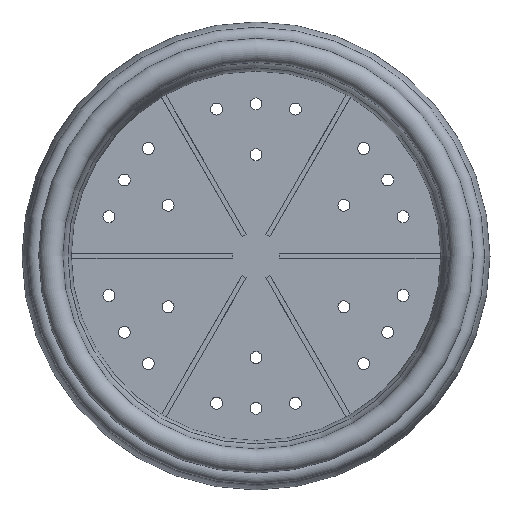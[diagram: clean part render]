
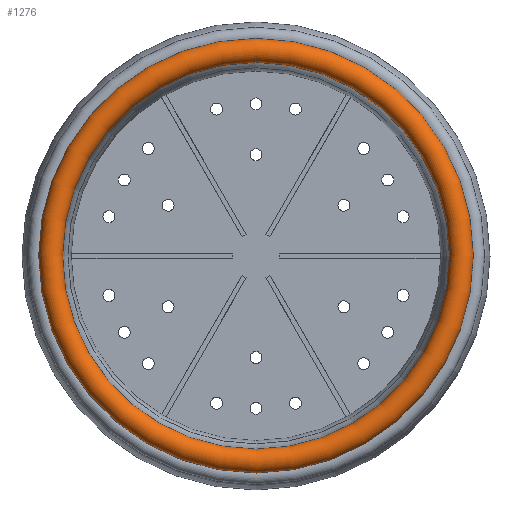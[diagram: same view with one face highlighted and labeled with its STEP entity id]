
A CAD part, top view. The second image highlights one B-rep face of the part: STEP entity #1276.
In plain terms, the highlighted toroidal (fillet/blend) face has major radius 86 mm and minor radius 5 mm.
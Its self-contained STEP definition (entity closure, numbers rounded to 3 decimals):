
#18=TOROIDAL_SURFACE('',#1441,86.,5.);
#154=FACE_OUTER_BOUND('',#245,.T.);
#245=EDGE_LOOP('',(#1097,#1098,#1099,#1100));
#522=CIRCLE('',#1440,89.83);
#523=CIRCLE('',#1442,81.);
#524=CIRCLE('',#1443,5.);
#643=VERTEX_POINT('',#2201);
#644=VERTEX_POINT('',#2205);
#810=EDGE_CURVE('',#643,#643,#522,.T.);
#812=EDGE_CURVE('',#644,#644,#523,.T.);
#813=EDGE_CURVE('',#644,#643,#524,.T.);
#1097=ORIENTED_EDGE('',*,*,#812,.F.);
#1098=ORIENTED_EDGE('',*,*,#813,.T.);
#1099=ORIENTED_EDGE('',*,*,#810,.T.);
#1100=ORIENTED_EDGE('',*,*,#813,.F.);
#1276=ADVANCED_FACE('',(#154),#18,.T.);
#1440=AXIS2_PLACEMENT_3D('',#2202,#1821,#1822);
#1441=AXIS2_PLACEMENT_3D('',#2204,#1824,#1825);
#1442=AXIS2_PLACEMENT_3D('',#2206,#1826,#1827);
#1443=AXIS2_PLACEMENT_3D('',#2207,#1828,#1829);
#1821=DIRECTION('center_axis',(0.,0.,1.));
#1822=DIRECTION('ref_axis',(1.,0.,0.));
#1824=DIRECTION('center_axis',(0.,0.,1.));
#1825=DIRECTION('ref_axis',(1.,0.,0.));
#1826=DIRECTION('center_axis',(0.,0.,1.));
#1827=DIRECTION('ref_axis',(1.,0.,0.));
#1828=DIRECTION('center_axis',(0.,-1.,0.));
#1829=DIRECTION('ref_axis',(-1.,0.,0.));
#2201=CARTESIAN_POINT('',(-89.83,0.,91.786));
#2202=CARTESIAN_POINT('Origin',(0.,0.,91.786));
#2204=CARTESIAN_POINT('Origin',(0.,0.,95.));
#2205=CARTESIAN_POINT('',(-81.,0.,95.));
#2206=CARTESIAN_POINT('Origin',(0.,0.,95.));
#2207=CARTESIAN_POINT('Origin',(-86.,0.,
95.));
